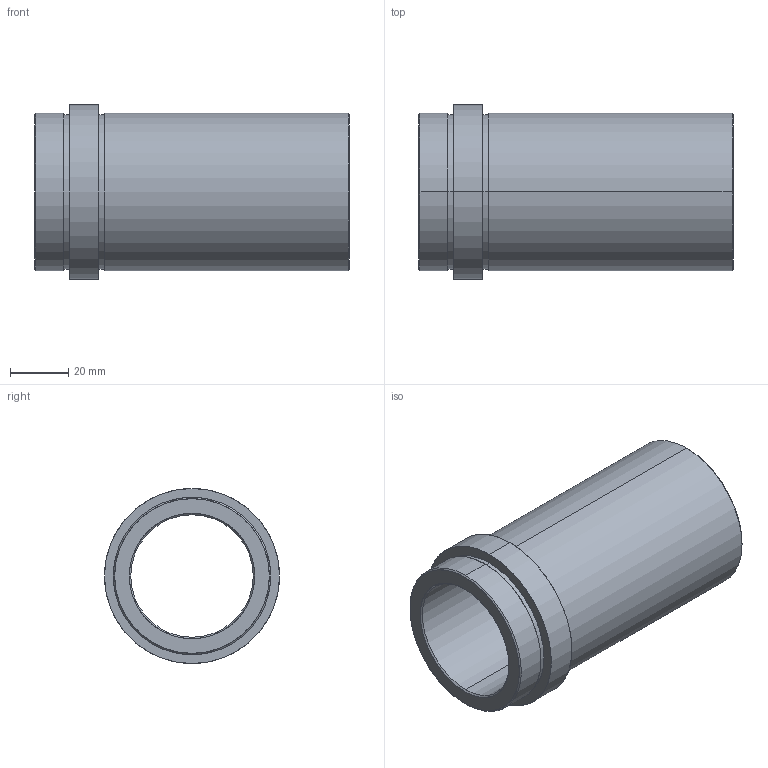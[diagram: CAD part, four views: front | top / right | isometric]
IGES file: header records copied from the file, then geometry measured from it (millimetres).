
Start section: SolidWorks IGES FILE using analytic representation for surfaces
Global section: file name: D:\zzzzz\Delta\D21\42\D21 - 42x96.IGS; native system: SolidWorks 2004 by SolidWorks Corporation; preprocessor: Version 5.3; author: Hkn; date: 080326.193605; units: millimetre
Bounding box: 108 x 60 x 60 mm (x, y, z)
Surface area: 35791.4 mm2 (no closed solid volume)
Topology: 0 solids, 0 shells, 26 faces, 848 edges, 848 vertices
Faces by surface type: revolution 20, bspline 6
